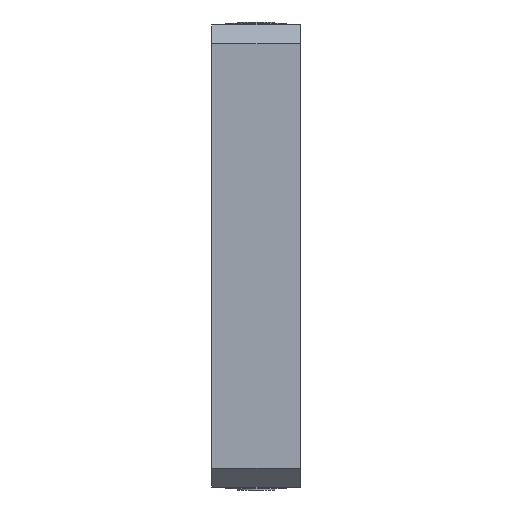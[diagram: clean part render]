
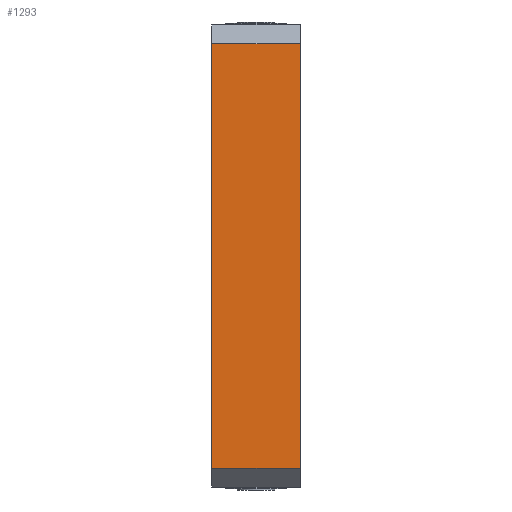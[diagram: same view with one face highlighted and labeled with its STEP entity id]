
A CAD part, left-side view. The second image highlights one B-rep face of the part: STEP entity #1293.
In plain terms, the highlighted planar face has unit normal (-1, 0, 0).
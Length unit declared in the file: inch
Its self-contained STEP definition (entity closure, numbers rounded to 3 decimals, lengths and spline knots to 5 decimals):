
#736 = VECTOR ( 'NONE', #13416, 39.37008 ) ;
#1293 = ADVANCED_FACE ( 'NONE', ( #6438 ), #5308, .F. ) ;
#1382 = EDGE_CURVE ( 'NONE', #11772, #9186, #12612, .T. ) ;
#1386 = CARTESIAN_POINT ( 'NONE',  ( -6.65354, 1.1811, -2.82087 ) ) ;
#1873 = ORIENTED_EDGE ( 'NONE', *, *, #5986, .T. ) ;
#2204 = CARTESIAN_POINT ( 'NONE',  ( -6.65354, 1.1811, 2.82087 ) ) ;
#2683 = DIRECTION ( 'NONE',  ( 0., 0., 1. ) ) ;
#2928 = DIRECTION ( 'NONE',  ( 0., 0., 1. ) ) ;
#3486 = LINE ( 'NONE', #10882, #736 ) ;
#3909 = DIRECTION ( 'NONE',  ( 0., 0., -1. ) ) ;
#4329 = ORIENTED_EDGE ( 'NONE', *, *, #12897, .F. ) ;
#5052 = VERTEX_POINT ( 'NONE', #11905 ) ;
#5308 = PLANE ( 'NONE',  #8220 ) ;
#5694 = VERTEX_POINT ( 'NONE', #2204 ) ;
#5986 = EDGE_CURVE ( 'NONE', #5052, #11772, #9271, .T. ) ;
#6376 = CARTESIAN_POINT ( 'NONE',  ( -6.65354, 1.1811, -3.07087 ) ) ;
#6438 = FACE_OUTER_BOUND ( 'NONE', #13144, .T. ) ;
#6481 = DIRECTION ( 'NONE',  ( 0., -1., 0. ) ) ;
#7010 = ORIENTED_EDGE ( 'NONE', *, *, #1382, .T. ) ;
#8220 = AXIS2_PLACEMENT_3D ( 'NONE', #6376, #15122, #3909 ) ;
#8303 = VECTOR ( 'NONE', #6481, 39.37008 ) ;
#8773 = VECTOR ( 'NONE', #2928, 39.37008 ) ;
#9186 = VERTEX_POINT ( 'NONE', #12181 ) ;
#9271 = LINE ( 'NONE', #1386, #8303 ) ;
#9524 = ORIENTED_EDGE ( 'NONE', *, *, #15003, .T. ) ;
#10245 = CARTESIAN_POINT ( 'NONE',  ( -6.65354, 0., -3.07087 ) ) ;
#10882 = CARTESIAN_POINT ( 'NONE',  ( -6.65354, 1.1811, 2.82087 ) ) ;
#11772 = VERTEX_POINT ( 'NONE', #11974 ) ;
#11905 = CARTESIAN_POINT ( 'NONE',  ( -6.65354, 1.1811, -2.82087 ) ) ;
#11974 = CARTESIAN_POINT ( 'NONE',  ( -6.65354, 0., -2.82087 ) ) ;
#12181 = CARTESIAN_POINT ( 'NONE',  ( -6.65354, 0., 2.82087 ) ) ;
#12612 = LINE ( 'NONE', #10245, #14963 ) ;
#12897 = EDGE_CURVE ( 'NONE', #5052, #5694, #15436, .T. ) ;
#13144 = EDGE_LOOP ( 'NONE', ( #4329, #1873, #7010, #9524 ) ) ;
#13416 = DIRECTION ( 'NONE',  ( 0., 1., 0. ) ) ;
#14008 = CARTESIAN_POINT ( 'NONE',  ( -6.65354, 1.1811, -3.07087 ) ) ;
#14963 = VECTOR ( 'NONE', #2683, 39.37008 ) ;
#15003 = EDGE_CURVE ( 'NONE', #9186, #5694, #3486, .T. ) ;
#15122 = DIRECTION ( 'NONE',  ( 1., 0., 0. ) ) ;
#15436 = LINE ( 'NONE', #14008, #8773 ) ;
